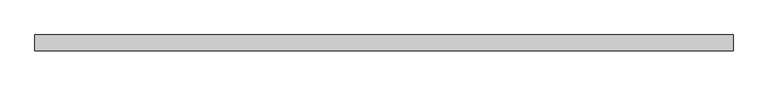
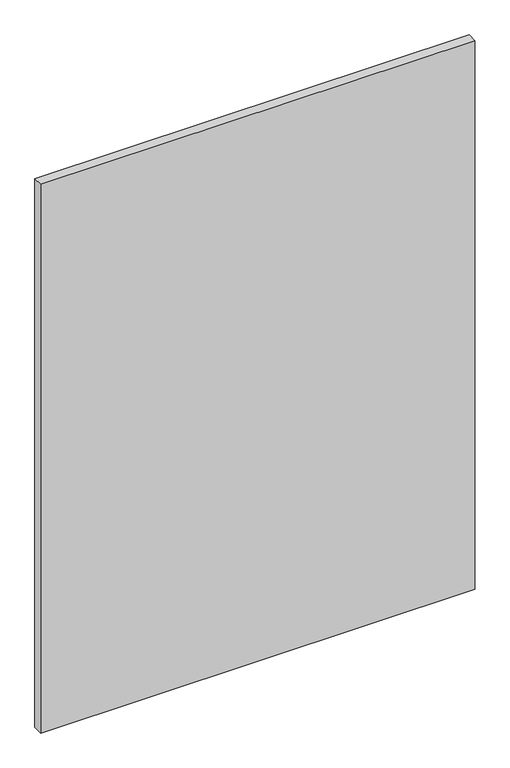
"""IFC4 building model written with IfcOpenShell, lengths in millimetres: plate geometry, 系统嵌板 : 玻璃."""

import ifcopenshell
import ifcopenshell.guid

model = None  # the IFC model being written
_history = None  # IfcOwnerHistory: only IFC2X3 demands one
_inside = {}  # id of a spatial element -> (the spatial element, [elements in it])
_under = {}  # id of a project, library or spatial element -> (it, [spatial elements below it])
_declared = {}  # id of a project -> (the project, [libraries it declares])
_typed = {}  # id of a type object -> (the type object, [elements of that type])
_made_of = {}  # id of a material, layer set ... -> (it, [elements and type objects made of it])


def new_model(schema):
    """Start an empty IFC model of exactly this schema.

    Asked for "IFC4X3", IfcOpenShell would pick the latest addendum, in which some entities
    have other attributes; the version numbers below select the first issue.
    IFC2X3 requires an IfcOwnerHistory on every rooted entity: one is made here for all.
    """
    global model, _history
    if schema == "IFC4X3":
        model = ifcopenshell.file(schema_version=(4, 3, 0, 0))
    else:
        model = ifcopenshell.file(schema=schema)
    _inside.clear()
    _under.clear()
    _declared.clear()
    _typed.clear()
    _made_of.clear()
    _history = None
    if model.schema == "IFC2X3":
        org = make("IfcOrganization", Name="unknown")
        user = make(
            "IfcPersonAndOrganization",
            ThePerson=make("IfcPerson", FamilyName="unknown"),
            TheOrganization=org,
        )
        app = make(
            "IfcApplication",
            ApplicationDeveloper=org,
            Version="unknown",
            ApplicationFullName="unknown",
            ApplicationIdentifier="unknown",
        )
        _history = make(
            "IfcOwnerHistory",
            OwningUser=user,
            OwningApplication=app,
            ChangeAction="ADDED",
            CreationDate=0,
        )
    return model


def make(cls, **values):
    """One entity of the class cls with the attributes given. An attribute that is None is left unset."""
    return model.create_entity(
        cls, **{name: value for name, value in values.items() if value is not None}
    )


def rooted(cls, **values):
    """An entity with a GlobalId (a new one), such as an element, a storey or a relation."""
    return make(cls, GlobalId=ifcopenshell.guid.new(), OwnerHistory=_history, **values)


def si_unit(unit_type, name, prefix=None):
    """IfcSIUnit, for example si_unit("LENGTHUNIT", "METRE", prefix="MILLI")."""
    return make("IfcSIUnit", UnitType=unit_type, Prefix=prefix, Name=name)


def assignment(units):
    """IfcUnitAssignment: the units of a project."""
    return None if units is None else make("IfcUnitAssignment", Units=units)


def point(xyz):
    """IfcCartesianPoint."""
    return None if xyz is None else make("IfcCartesianPoint", Coordinates=xyz)


def direction(xyz):
    """IfcDirection."""
    return None if xyz is None else make("IfcDirection", DirectionRatios=xyz)


def frame(location, z_axis=None, x_axis=None):
    """IfcAxis2Placement3D, a coordinate frame: its origin and axes. An axis left out is left unset."""
    return make(
        "IfcAxis2Placement3D",
        Location=point(location),
        Axis=direction(z_axis),
        RefDirection=direction(x_axis),
    )


def origin():
    """The frame at (0, 0, 0) with its axes left unset."""
    return frame((0.0, 0.0, 0.0))


def origin_with_axes():
    """The frame at (0, 0, 0) with the z axis (0, 0, 1) and the x axis (1, 0, 0) written out."""
    return frame((0.0, 0.0, 0.0), z_axis=(0.0, 0.0, 1.0), x_axis=(1.0, 0.0, 0.0))


def place(relative_to, where):
    """IfcLocalPlacement: puts the frame where relative to a parent placement (None: the world)."""
    return make(
        "IfcLocalPlacement", PlacementRelTo=relative_to, RelativePlacement=where
    )


def context(
    kind, dimensions, precision=None, world=None, true_north=None, identifier=None
):
    """IfcGeometricRepresentationContext, for example the 3D "Model" context."""
    return make(
        "IfcGeometricRepresentationContext",
        ContextIdentifier=identifier,
        ContextType=kind,
        CoordinateSpaceDimension=dimensions,
        Precision=precision,
        WorldCoordinateSystem=world,
        TrueNorth=true_north,
    )


def project(units=None, contexts=None):
    """IfcProject with its units and contexts."""
    return rooted(
        "IfcProject",
        Name="project",
        RepresentationContexts=contexts,
        UnitsInContext=assignment(units),
    )


def spatial(cls, under=None, at=None, **own):
    """A site, building, storey or space (cls), placed at a placement, below another one or the project."""
    s = rooted(cls, ObjectPlacement=at, **own)
    if under is not None:
        _under.setdefault(under.id(), (under, []))[1].append(s)
    return s


def polyline(points):
    """IfcPolyline through the points."""
    return make("IfcPolyline", Points=[point(p) for p in points])


def outline(outer, holes=None, kind="AREA"):
    """IfcArbitraryClosedProfileDef: a profile drawn as a closed curve; with holes, ...WithVoids."""
    if holes is None:
        return make("IfcArbitraryClosedProfileDef", ProfileType=kind, OuterCurve=outer)
    return make(
        "IfcArbitraryProfileDefWithVoids",
        ProfileType=kind,
        OuterCurve=outer,
        InnerCurves=holes,
    )


def extrude(swept, where, along, depth):
    """IfcExtrudedAreaSolid: the profile swept, set in the frame where, extruded along a direction by depth."""
    return make(
        "IfcExtrudedAreaSolid",
        SweptArea=swept,
        Position=where,
        ExtrudedDirection=direction(along),
        Depth=depth,
    )


def shape(context_of_items, identifier, shape_type, items):
    """IfcShapeRepresentation: the items that make up one representation, for example the "Body"."""
    return make(
        "IfcShapeRepresentation",
        ContextOfItems=context_of_items,
        RepresentationIdentifier=identifier,
        RepresentationType=shape_type,
        Items=items,
    )


def source(mapping_origin, context_of_items, identifier, shape_type, items):
    """IfcRepresentationMap: a shape defined once, which mapped items show again and again."""
    return make(
        "IfcRepresentationMap",
        MappingOrigin=mapping_origin,
        MappedRepresentation=shape(context_of_items, identifier, shape_type, items),
    )


def transform(
    local_origin,
    x_axis=None,
    y_axis=None,
    z_axis=None,
    scale=None,
    scale2=None,
    scale3=None,
    uniform=True,
):
    """IfcCartesianTransformationOperator3D, or its non-uniform kind. x_axis, y_axis, z_axis: its Axis1, 2, 3."""
    if uniform:
        return make(
            "IfcCartesianTransformationOperator3D",
            Axis1=direction(x_axis),
            Axis2=direction(y_axis),
            LocalOrigin=point(local_origin),
            Scale=scale,
            Axis3=direction(z_axis),
        )
    return make(
        "IfcCartesianTransformationOperator3DnonUniform",
        Axis1=direction(x_axis),
        Axis2=direction(y_axis),
        LocalOrigin=point(local_origin),
        Scale=scale,
        Axis3=direction(z_axis),
        Scale2=scale2,
        Scale3=scale3,
    )


def mapped(mapping_source, mapping_target):
    """IfcMappedItem: shows the shape of a source again, moved by a transform."""
    return make(
        "IfcMappedItem", MappingSource=mapping_source, MappingTarget=mapping_target
    )


def made_of(thing, what):
    """Note that an element or type object is made of a material, layer set ...; save() writes the relation."""
    if what is not None:
        _made_of.setdefault(what.id(), (what, []))[1].append(thing)
    return thing


def element(
    cls,
    number,
    at=None,
    inside=None,
    cuts=None,
    type_object=None,
    material=None,
    context=None,
    identifier="Body",
    shape_type=None,
    held_by="IfcProductDefinitionShape",
    body=None,
    shapes=None,
    **own,
):
    """One element of the class cls, such as IfcWall. Its Tag is "e" and its number.

    at: its placement. inside: the storey or other place that contains it. cuts: it is an
    opening in that element (IfcRelVoidsElement). A single representation is given by context,
    identifier, shape_type and body (its items); several are given by shapes. held_by: the class
    of the entity that holds the representations. save() writes the other relations.
    """
    e = rooted(cls, Tag="e%d" % number, ObjectPlacement=at, **own)
    if body is not None:
        shapes = [shape(context, identifier, shape_type, body)]
    if shapes is not None:
        e.Representation = make(held_by, Representations=shapes)
    if inside is not None:
        _inside.setdefault(inside.id(), (inside, []))[1].append(e)
    if cuts is not None:
        rooted(
            "IfcRelVoidsElement", RelatingBuildingElement=cuts, RelatedOpeningElement=e
        )
    if type_object is not None:
        _typed.setdefault(type_object.id(), (type_object, []))[1].append(e)
    return made_of(e, material)


def aggregate(whole, parts):
    """IfcRelAggregates: a whole, such as a stair, and the parts it consists of."""
    return rooted("IfcRelAggregates", RelatingObject=whole, RelatedObjects=parts)


def save(model, path):
    """Write the relations noted so far, then the file.

    IfcRelAggregates (storeys below a building ...), IfcRelContainedInSpatialStructure (elements
    in a storey), IfcRelDefinesByType, IfcRelAssociatesMaterial and IfcRelDeclares: one each for
    every whole, place, type object, material and project.
    """
    for whole, parts in _under.values():
        aggregate(whole, parts)
    for where, things in _inside.values():
        rooted(
            "IfcRelContainedInSpatialStructure",
            RelatedElements=things,
            RelatingStructure=where,
        )
    for kind, things in _typed.values():
        rooted("IfcRelDefinesByType", RelatedObjects=things, RelatingType=kind)
    for what, things in _made_of.values():
        rooted("IfcRelAssociatesMaterial", RelatedObjects=things, RelatingMaterial=what)
    for by, libraries in _declared.values():
        rooted("IfcRelDeclares", RelatingContext=by, RelatedDefinitions=libraries)
    model.write(path)


def plate_1ca0cd63(model_context):
    return source(origin(), model_context, "Body", "SweptSolid", [
        extrude(outline(polyline([(550.0, -12.5), (-550.0, -12.5), (-550.0, 12.5), (550.0, 12.5), (550.0, -12.5)])), origin_with_axes(), (0.0, 0.0, 1.0), 1470.0),
    ])


if __name__ == "__main__":
    model = new_model("IFC4")
    model_context = context("Model", 3, world=origin())
    ifc_project = project(units=[si_unit("LENGTHUNIT", "METRE", prefix="MILLI")], contexts=[model_context])
    site = spatial("IfcSite", under=ifc_project)
    building = spatial("IfcBuilding", under=site)
    placement = place(None, origin())
    plate_shape = plate_1ca0cd63(model_context)
    element("IfcPlate", 1, ObjectType="系统嵌板 : 玻璃", at=placement, inside=building, context=model_context, shape_type="MappedRepresentation", body=[
        mapped(plate_shape, transform((0.0, 0.0, 0.0), x_axis=(1.0, 0.0, 0.0), y_axis=(0.0, 1.0, 0.0), z_axis=(0.0, 0.0, 1.0))),
    ])
    save(model, "model.ifc")
